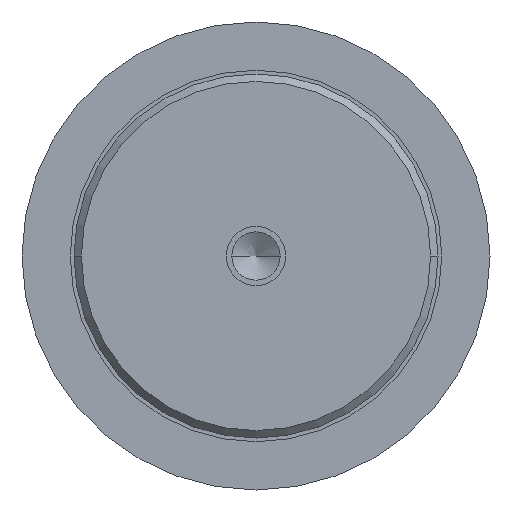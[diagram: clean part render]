
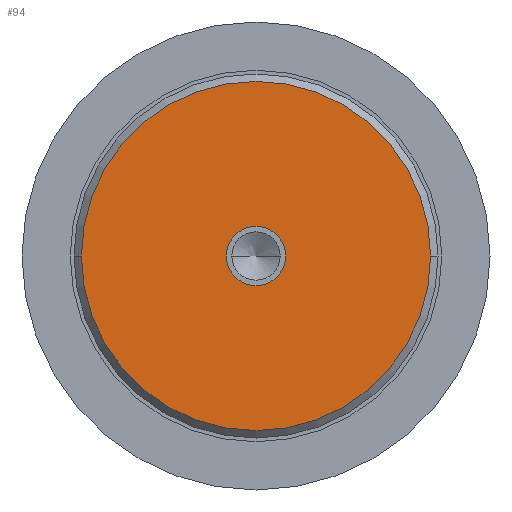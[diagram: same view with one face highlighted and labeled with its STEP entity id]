
A CAD part, left-side view. The second image highlights one B-rep face of the part: STEP entity #94.
In plain terms, the highlighted free-form (B-spline) face has degree [1, 1] with [2, 2] control points.
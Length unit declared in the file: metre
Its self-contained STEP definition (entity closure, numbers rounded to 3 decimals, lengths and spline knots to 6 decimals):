
#94 = ADVANCED_FACE( '', ( #155, #156 ), #157, .F. );
#155 = FACE_BOUND( '', #307, .T. );
#156 = FACE_OUTER_BOUND( '', #308, .T. );
#157 = B_SPLINE_SURFACE_WITH_KNOTS( '', 1, 1, ( ( #309, #310 ), ( #311, #312 ) ), .UNSPECIFIED., .F., .F., .F., ( 2, 2 ), ( 2, 2 ), ( 0., 1. ), ( 0., 1. ), .UNSPECIFIED. );
#307 = EDGE_LOOP( '', ( #503, #504 ) );
#308 = EDGE_LOOP( '', ( #505, #506 ) );
#309 = CARTESIAN_POINT( '', ( 0., -0.023782, -0.023782 ) );
#310 = CARTESIAN_POINT( '', ( 0., -0.023782, 0.023782 ) );
#311 = CARTESIAN_POINT( '', ( 0., 0.023782, -0.023782 ) );
#312 = CARTESIAN_POINT( '', ( 0., 0.023782, 0.023782 ) );
#503 = ORIENTED_EDGE( '', *, *, #686, .F. );
#504 = ORIENTED_EDGE( '', *, *, #684, .F. );
#505 = ORIENTED_EDGE( '', *, *, #689, .F. );
#506 = ORIENTED_EDGE( '', *, *, #690, .F. );
#684 = EDGE_CURVE( '', #778, #780, #781, .T. );
#686 = EDGE_CURVE( '', #780, #778, #783, .T. );
#689 = EDGE_CURVE( '', #787, #788, #789, .T. );
#690 = EDGE_CURVE( '', #788, #787, #790, .T. );
#778 = VERTEX_POINT( '', #910 );
#780 = VERTEX_POINT( '', #913 );
#781 = CIRCLE( '', #914, 0.004 );
#783 = CIRCLE( '', #917, 0.004 );
#787 = VERTEX_POINT( '', #923 );
#788 = VERTEX_POINT( '', #924 );
#789 = CIRCLE( '', #925, 0.0235 );
#790 = CIRCLE( '', #926, 0.0235 );
#910 = CARTESIAN_POINT( '', ( 0., -0.004, 0. ) );
#913 = CARTESIAN_POINT( '', ( 0., 0.004, 0. ) );
#914 = AXIS2_PLACEMENT_3D( '', #1076, #1077, #1078 );
#917 = AXIS2_PLACEMENT_3D( '', #1080, #1081, #1082 );
#923 = CARTESIAN_POINT( '', ( 0., 0.0235, 0. ) );
#924 = CARTESIAN_POINT( '', ( 0., -0.0235, 0. ) );
#925 = AXIS2_PLACEMENT_3D( '', #1085, #1086, #1087 );
#926 = AXIS2_PLACEMENT_3D( '', #1088, #1089, #1090 );
#1076 = CARTESIAN_POINT( '', ( 0., 0., 0. ) );
#1077 = DIRECTION( '', ( -1., 0., 0. ) );
#1078 = DIRECTION( '', ( 0., -1., 0. ) );
#1080 = CARTESIAN_POINT( '', ( 0., 0., 0. ) );
#1081 = DIRECTION( '', ( -1., 0., 0. ) );
#1082 = DIRECTION( '', ( 0., -1., 0. ) );
#1085 = CARTESIAN_POINT( '', ( 0., 0., 0. ) );
#1086 = DIRECTION( '', ( 1., 0., 0. ) );
#1087 = DIRECTION( '', ( 0., 1., 0. ) );
#1088 = CARTESIAN_POINT( '', ( 0., 0., 0. ) );
#1089 = DIRECTION( '', ( 1., 0., 0. ) );
#1090 = DIRECTION( '', ( 0., 1., 0. ) );
